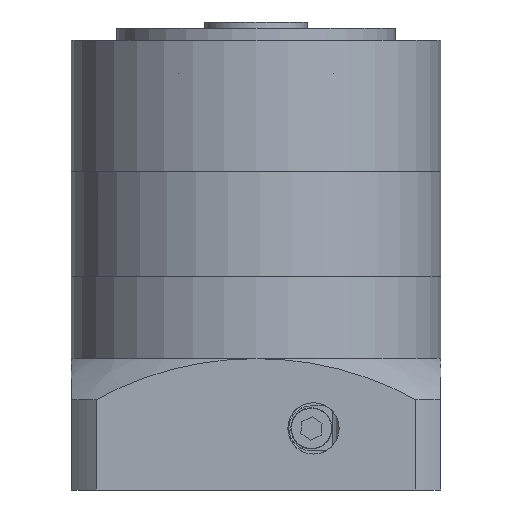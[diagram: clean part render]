
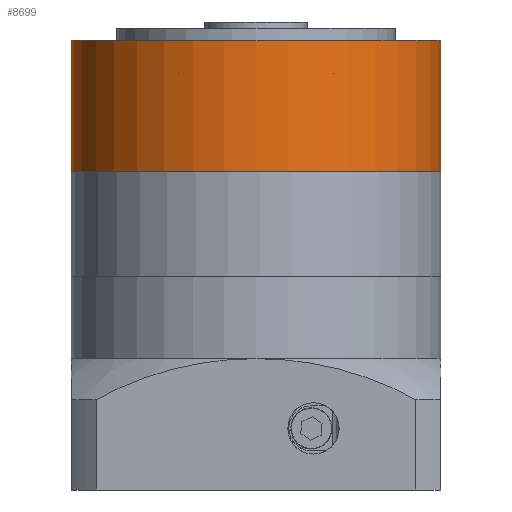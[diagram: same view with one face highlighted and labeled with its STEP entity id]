
A CAD part, front view. The second image highlights one B-rep face of the part: STEP entity #8699.
In plain terms, the highlighted cylindrical face has radius 45 mm (diameter 90 mm), a partial arc.
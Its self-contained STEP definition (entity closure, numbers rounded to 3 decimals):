
#1971 = DIRECTION ( 'NONE',  ( 0., 0., 1. ) ) ;
#2335 = ORIENTED_EDGE ( 'NONE', *, *, #10563, .F. ) ;
#2663 = CARTESIAN_POINT ( 'NONE',  ( 0., 0., -35. ) ) ;
#3866 = VERTEX_POINT ( 'NONE', #46156 ) ;
#3932 = VERTEX_POINT ( 'NONE', #21004 ) ;
#5724 = DIRECTION ( 'NONE',  ( 1., 0., 0. ) ) ;
#6424 = DIRECTION ( 'NONE',  ( 1., 0., 0. ) ) ;
#8699 = ADVANCED_FACE ( 'NONE', ( #35234 ), #24315, .T. ) ;
#10563 = EDGE_CURVE ( 'NONE', #20397, #38933, #42077, .T. ) ;
#10743 = CARTESIAN_POINT ( 'NONE',  ( 45., 0., 0. ) ) ;
#13740 = VECTOR ( 'NONE', #43084, 1000. ) ;
#14066 = EDGE_LOOP ( 'NONE', ( #2335, #33831, #35812, #28556 ) ) ;
#15778 = AXIS2_PLACEMENT_3D ( 'NONE', #2663, #28509, #6424 ) ;
#16092 = VECTOR ( 'NONE', #32873, 1000. ) ;
#17237 = LINE ( 'NONE', #10743, #16092 ) ;
#17248 = CARTESIAN_POINT ( 'NONE',  ( -45., 0., 0. ) ) ;
#17793 = CARTESIAN_POINT ( 'NONE',  ( 0., 0., -3. ) ) ;
#20397 = VERTEX_POINT ( 'NONE', #28310 ) ;
#20694 = EDGE_CURVE ( 'NONE', #3866, #20397, #23026, .T. ) ;
#21004 = CARTESIAN_POINT ( 'NONE',  ( 45., 0., -3. ) ) ;
#21540 = DIRECTION ( 'NONE',  ( 1., 0., 0. ) ) ;
#23026 = CIRCLE ( 'NONE', #15778, 45. ) ;
#24315 = CYLINDRICAL_SURFACE ( 'NONE', #30555, 45. ) ;
#28310 = CARTESIAN_POINT ( 'NONE',  ( -45., 0., -35. ) ) ;
#28509 = DIRECTION ( 'NONE',  ( 0., 0., -1. ) ) ;
#28556 = ORIENTED_EDGE ( 'NONE', *, *, #43085, .T. ) ;
#28828 = CIRCLE ( 'NONE', #44039, 45. ) ;
#30555 = AXIS2_PLACEMENT_3D ( 'NONE', #46183, #1971, #5724 ) ;
#32873 = DIRECTION ( 'NONE',  ( 0., 0., 1. ) ) ;
#33831 = ORIENTED_EDGE ( 'NONE', *, *, #20694, .F. ) ;
#35234 = FACE_OUTER_BOUND ( 'NONE', #14066, .T. ) ;
#35812 = ORIENTED_EDGE ( 'NONE', *, *, #42791, .T. ) ;
#38075 = CARTESIAN_POINT ( 'NONE',  ( -45., 0., -3. ) ) ;
#38933 = VERTEX_POINT ( 'NONE', #38075 ) ;
#42077 = LINE ( 'NONE', #17248, #13740 ) ;
#42791 = EDGE_CURVE ( 'NONE', #3866, #3932, #17237, .T. ) ;
#43084 = DIRECTION ( 'NONE',  ( 0., 0., 1. ) ) ;
#43085 = EDGE_CURVE ( 'NONE', #3932, #38933, #28828, .T. ) ;
#43620 = DIRECTION ( 'NONE',  ( 0., 0., -1. ) ) ;
#44039 = AXIS2_PLACEMENT_3D ( 'NONE', #17793, #43620, #21540 ) ;
#46156 = CARTESIAN_POINT ( 'NONE',  ( 45., 0., -35. ) ) ;
#46183 = CARTESIAN_POINT ( 'NONE',  ( 0., 0., 0. ) ) ;
